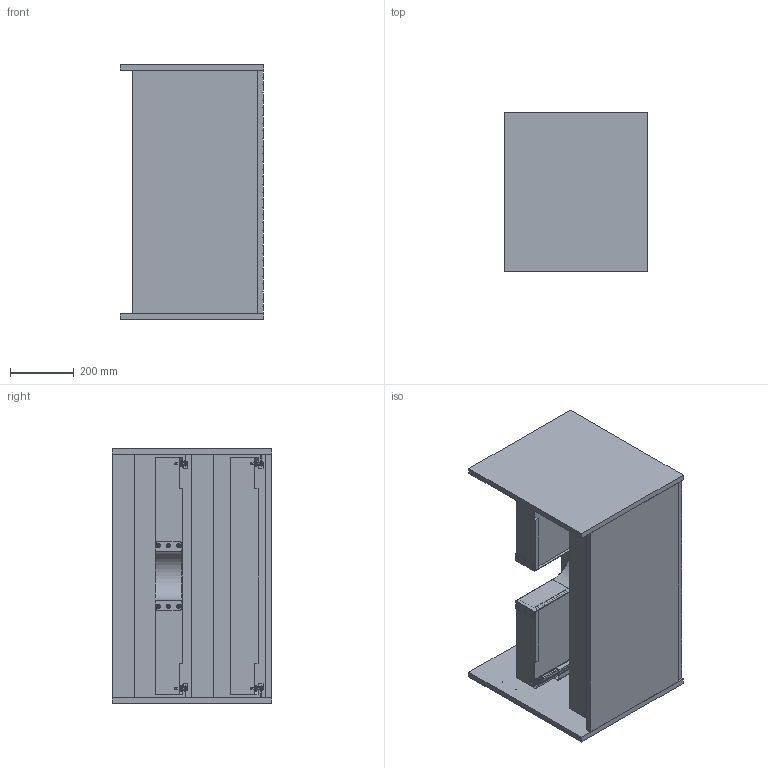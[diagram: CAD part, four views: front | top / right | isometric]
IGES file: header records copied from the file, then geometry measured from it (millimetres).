
Global section: file name: 3D Dosyası,; native system: Autodesk Inventor 2024; preprocessor: unknown; author: pc19; date: 20240720.094313; units: millimetre
Bounding box: 450 x 500 x 800 mm (x, y, z)
Volume: 29259988.1 mm3; surface area: 4991412.8 mm2
Topology: 31 solids, 31 shells, 1165 faces, 3312 edges, 2239 vertices
Faces by surface type: bspline 1165
